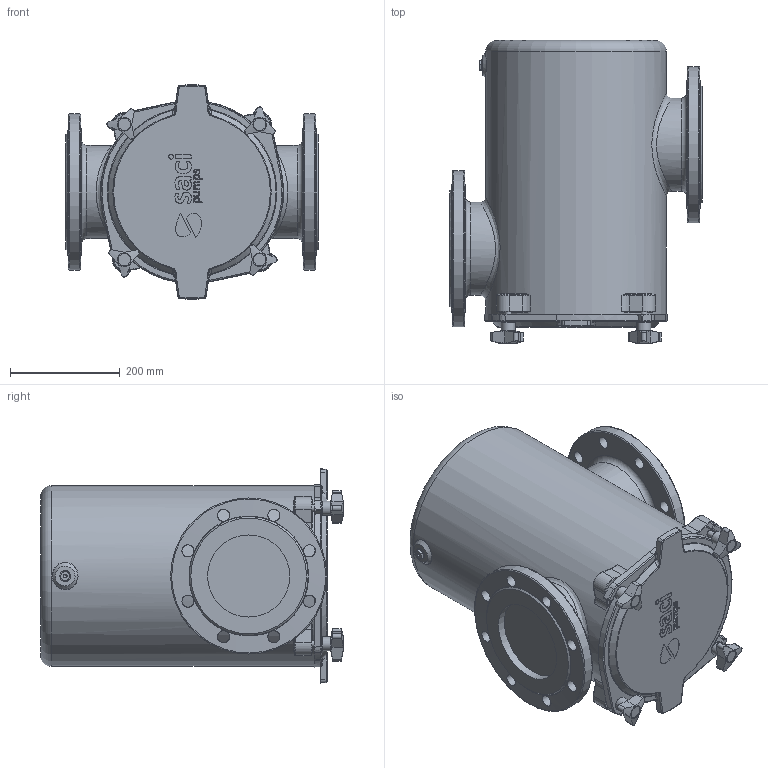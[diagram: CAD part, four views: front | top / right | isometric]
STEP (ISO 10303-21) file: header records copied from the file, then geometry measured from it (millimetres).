
FILE_DESCRIPTION(/* description */ ('Unknown'),/* implementation_level */ '2;1');
FILE_NAME(/* name */ ' PREFILTRO F 150-150 COMPLETO',/* time_stamp */ '2020-11-30T11:09:30+01:00',/* author */ ('Unknown'),/* organization */ ('Unknown'),/* preprocessor_version */ 'ST-DEVELOPER v16.7',/* originating_system */ 'Solid Edge',/* authorisation */ 'Unknown');
FILE_SCHEMA (('AUTOMOTIVE_DESIGN {1 0 10303 214 3 1 1}'));
Length unit declared in the file: millimetre
Products named in the file (1):  PREFILTRO F 150-150 COMPLETO
Bounding box: 460 x 553 x 391.42 mm (x, y, z)
Volume: 49575878.1 mm3; surface area: 1077197 mm2
Topology: 2 solids, 2 shells, 553 faces, 1400 edges, 863 vertices
Faces by surface type: plane 144, cylinder 138, bspline 106, torus 85, cone 80
Full cylindrical faces by diameter (mm): 10.106 x8, 12 x4, 20 x1, 22 x16, 22.5 x4, 25 x4, 150 x2, 170 x2, 285 x2, 330 x1
Entity records: 26930 total; most frequent: CARTESIAN_POINT 11334, ORIENTED_EDGE 2476, DIRECTION 2178, EDGE_CURVE 1238, AXIS2_PLACEMENT_3D 916, VERTEX_POINT 808, FACE_BOUND 712, EDGE_LOOP 710
